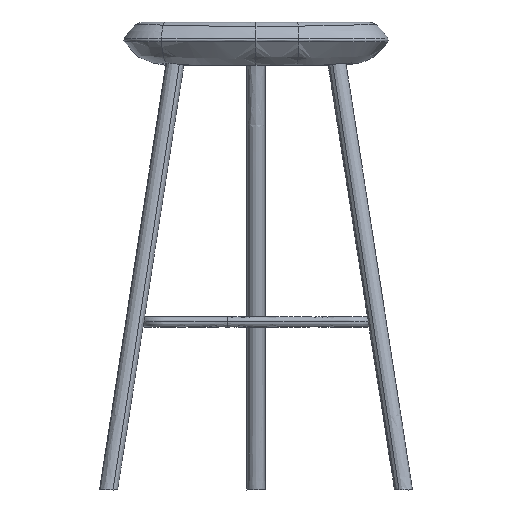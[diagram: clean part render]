
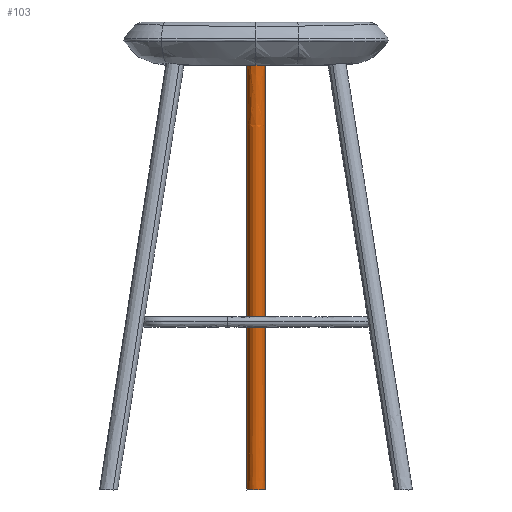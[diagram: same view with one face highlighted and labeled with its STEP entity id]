
A CAD part, front view. The second image highlights one B-rep face of the part: STEP entity #103.
In plain terms, the highlighted free-form (B-spline) face has degree [3, 2] with [4, 5] control points.
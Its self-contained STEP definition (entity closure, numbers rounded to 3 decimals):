
#32=B_SPLINE_CURVE_WITH_KNOTS($,3,(#2730,#2731,#2732,#2733,#2734,#2735,#2736,
#2737,#2738,#2739,#2740,#2741,#2742,#2743,#2744,#2745,#2746,#2747,#2748,
#2749,#2750,#2751,#2752,#2753,#2754,#2755,#2756,#2757,#2758,#2759,#2760,
#2761,#2762,#2763,#2764,#2765,#2766,#2767),.UNSPECIFIED.,.F.,.F.,(4,2,2,
2,2,2,2,2,2,2,2,2,2,2,2,2,2,2,4),(-79.169,-76.701,-74.23,
-71.757,-69.281,-66.808,-64.334,-61.855,
-60.614,-59.373,-56.903,-54.432,
-51.957,-49.48,-47.012,-44.541,
-42.068,-39.592,-39.589),.UNSPECIFIED.);
#33=B_SPLINE_CURVE_WITH_KNOTS($,3,(#2772,#2773,#2774,#2775,#2776,#2777,#2778,
#2779,#2780,#2781,#2782,#2783,#2784,#2785,#2786,#2787,#2788,#2789,#2790,
#2791,#2792,#2793,#2794,#2795,#2796,#2797,#2798,#2799,#2800,#2801,#2802,
#2803,#2804,#2805,#2806,#2807,#2808,#2809),.UNSPECIFIED.,.F.,.F.,(4,2,2,
2,2,2,2,2,2,2,2,2,2,2,2,2,2,2,4),(39.589,39.592,42.069,
44.541,47.012,49.48,51.957,54.431,
56.902,59.37,60.611,61.851,64.328,
66.8,69.27,71.749,74.225,76.699,
79.169),.UNSPECIFIED.);
#103=ADVANCED_FACE($,(#178),#879,.T.);
#178=FACE_OUTER_BOUND($,#253,.T.);
#253=EDGE_LOOP($,(#353,#354,#355,#356));
#353=ORIENTED_EDGE($,*,*,#645,.T.);
#354=ORIENTED_EDGE($,*,*,#642,.T.);
#355=ORIENTED_EDGE($,*,*,#643,.T.);
#356=ORIENTED_EDGE($,*,*,#644,.F.);
#642=EDGE_CURVE($,#790,#791,#941,.T.);
#643=EDGE_CURVE($,#791,#793,#32,.T.);
#644=EDGE_CURVE($,#792,#793,#942,.T.);
#645=EDGE_CURVE($,#792,#790,#33,.T.);
#790=VERTEX_POINT($,#2907);
#791=VERTEX_POINT($,#2908);
#792=VERTEX_POINT($,#2909);
#793=VERTEX_POINT($,#2910);
#879=(
BOUNDED_SURFACE()
B_SPLINE_SURFACE(3,2,((#2887,#2888,#2889,#2890,#2891),(#2892,#2893,#2894,
#2895,#2896),(#2897,#2898,#2899,#2900,#2901),(#2902,#2903,#2904,#2905,#2906)),
.UNSPECIFIED.,.F.,.F.,.F.)
B_SPLINE_SURFACE_WITH_KNOTS((4,4),(3,2,3),(10.,637.253),
(-78.54,-58.905,-39.27),.UNSPECIFIED.)
GEOMETRIC_REPRESENTATION_ITEM()
RATIONAL_B_SPLINE_SURFACE(((1.,0.707,1.,0.707,1.),
(1.,0.707,1.,0.707,1.),(1.,0.707,1.,
0.707,1.),(1.,0.707,1.,0.707,1.)))
REPRESENTATION_ITEM($)
SURFACE()
);
#941=(
BOUNDED_CURVE()
B_SPLINE_CURVE(3,(#2726,#2727,#2728,#2729),.UNSPECIFIED.,.F.,.F.)
B_SPLINE_CURVE_WITH_KNOTS((4,4),(10.,628.792),.UNSPECIFIED.)
CURVE()
GEOMETRIC_REPRESENTATION_ITEM()
RATIONAL_B_SPLINE_CURVE((1.,1.,1.,1.))
REPRESENTATION_ITEM($)
);
#942=(
BOUNDED_CURVE()
B_SPLINE_CURVE(3,(#2768,#2769,#2770,#2771),.UNSPECIFIED.,.F.,.F.)
B_SPLINE_CURVE_WITH_KNOTS((4,4),(10.,628.792),.UNSPECIFIED.)
CURVE()
GEOMETRIC_REPRESENTATION_ITEM()
RATIONAL_B_SPLINE_CURVE((1.,1.,1.,1.))
REPRESENTATION_ITEM($)
);
#2726=CARTESIAN_POINT($,(120739.046,11133.254,-214.));
#2727=CARTESIAN_POINT($,(120739.046,11096.704,-11.));
#2728=CARTESIAN_POINT($,(120739.046,11060.154,192.));
#2729=CARTESIAN_POINT($,(120739.046,11023.604,395.));
#2730=CARTESIAN_POINT($,(120739.046,11023.604,395.));
#2731=CARTESIAN_POINT($,(120739.046,11022.781,395.));
#2732=CARTESIAN_POINT($,(120738.967,11021.959,395.));
#2733=CARTESIAN_POINT($,(120738.653,11020.341,395.));
#2734=CARTESIAN_POINT($,(120738.419,11019.549,395.));
#2735=CARTESIAN_POINT($,(120737.802,11018.019,395.));
#2736=CARTESIAN_POINT($,(120737.42,11017.285,395.));
#2737=CARTESIAN_POINT($,(120736.518,11015.901,395.));
#2738=CARTESIAN_POINT($,(120736.001,11015.255,395.));
#2739=CARTESIAN_POINT($,(120734.848,11014.073,395.));
#2740=CARTESIAN_POINT($,(120734.216,11013.54,395.));
#2741=CARTESIAN_POINT($,(120732.854,11012.607,395.));
#2742=CARTESIAN_POINT($,(120732.128,11012.209,395.));
#2743=CARTESIAN_POINT($,(120730.607,11011.563,395.));
#2744=CARTESIAN_POINT($,(120729.816,11011.316,395.));
#2745=CARTESIAN_POINT($,(120728.599,11011.068,395.));
#2746=CARTESIAN_POINT($,(120728.192,11011.006,395.));
#2747=CARTESIAN_POINT($,(120727.367,11010.923,395.));
#2748=CARTESIAN_POINT($,(120726.956,11010.903,395.));
#2749=CARTESIAN_POINT($,(120725.717,11010.903,395.));
#2750=CARTESIAN_POINT($,(120724.896,11010.986,395.));
#2751=CARTESIAN_POINT($,(120723.28,11011.315,395.));
#2752=CARTESIAN_POINT($,(120722.49,11011.561,395.));
#2753=CARTESIAN_POINT($,(120720.971,11012.205,395.));
#2754=CARTESIAN_POINT($,(120720.245,11012.603,395.));
#2755=CARTESIAN_POINT($,(120718.881,11013.536,395.));
#2756=CARTESIAN_POINT($,(120718.247,11014.069,395.));
#2757=CARTESIAN_POINT($,(120717.094,11015.25,395.));
#2758=CARTESIAN_POINT($,(120716.578,11015.895,395.));
#2759=CARTESIAN_POINT($,(120715.678,11017.275,395.));
#2760=CARTESIAN_POINT($,(120715.295,11018.007,395.));
#2761=CARTESIAN_POINT($,(120714.676,11019.536,395.));
#2762=CARTESIAN_POINT($,(120714.441,11020.329,395.));
#2763=CARTESIAN_POINT($,(120714.126,11021.95,395.));
#2764=CARTESIAN_POINT($,(120714.046,11022.774,395.));
#2765=CARTESIAN_POINT($,(120714.046,11023.602,395.));
#2766=CARTESIAN_POINT($,(120714.046,11023.603,395.));
#2767=CARTESIAN_POINT($,(120714.046,11023.604,395.));
#2768=CARTESIAN_POINT($,(120714.046,11133.254,-214.));
#2769=CARTESIAN_POINT($,(120714.046,11096.704,-11.));
#2770=CARTESIAN_POINT($,(120714.046,11060.154,192.));
#2771=CARTESIAN_POINT($,(120714.046,11023.604,395.));
#2772=CARTESIAN_POINT($,(120714.046,11133.254,-214.));
#2773=CARTESIAN_POINT($,(120714.046,11133.253,-214.));
#2774=CARTESIAN_POINT($,(120714.046,11133.251,-214.));
#2775=CARTESIAN_POINT($,(120714.046,11132.424,-214.));
#2776=CARTESIAN_POINT($,(120714.126,11131.6,-214.));
#2777=CARTESIAN_POINT($,(120714.441,11129.979,-214.));
#2778=CARTESIAN_POINT($,(120714.676,11129.186,-214.));
#2779=CARTESIAN_POINT($,(120715.295,11127.657,-214.));
#2780=CARTESIAN_POINT($,(120715.678,11126.924,-214.));
#2781=CARTESIAN_POINT($,(120716.579,11125.544,-214.));
#2782=CARTESIAN_POINT($,(120717.095,11124.9,-214.));
#2783=CARTESIAN_POINT($,(120718.247,11123.719,-214.));
#2784=CARTESIAN_POINT($,(120718.881,11123.186,-214.));
#2785=CARTESIAN_POINT($,(120720.244,11122.253,-214.));
#2786=CARTESIAN_POINT($,(120720.97,11121.855,-214.));
#2787=CARTESIAN_POINT($,(120722.489,11121.211,-214.));
#2788=CARTESIAN_POINT($,(120723.279,11120.966,-214.));
#2789=CARTESIAN_POINT($,(120724.894,11120.636,-214.));
#2790=CARTESIAN_POINT($,(120725.715,11120.553,-214.));
#2791=CARTESIAN_POINT($,(120726.953,11120.552,-214.));
#2792=CARTESIAN_POINT($,(120727.364,11120.573,-214.));
#2793=CARTESIAN_POINT($,(120728.188,11120.656,-214.));
#2794=CARTESIAN_POINT($,(120728.595,11120.717,-214.));
#2795=CARTESIAN_POINT($,(120729.811,11120.965,-214.));
#2796=CARTESIAN_POINT($,(120730.601,11121.211,-214.));
#2797=CARTESIAN_POINT($,(120732.122,11121.856,-214.));
#2798=CARTESIAN_POINT($,(120732.847,11122.253,-214.));
#2799=CARTESIAN_POINT($,(120734.208,11123.184,-214.));
#2800=CARTESIAN_POINT($,(120734.841,11123.716,-214.));
#2801=CARTESIAN_POINT($,(120735.995,11124.897,-214.));
#2802=CARTESIAN_POINT($,(120736.513,11125.544,-214.));
#2803=CARTESIAN_POINT($,(120737.416,11126.929,-214.));
#2804=CARTESIAN_POINT($,(120737.799,11127.663,-214.));
#2805=CARTESIAN_POINT($,(120738.418,11129.194,-214.));
#2806=CARTESIAN_POINT($,(120738.653,11129.988,-214.));
#2807=CARTESIAN_POINT($,(120738.967,11131.607,-214.));
#2808=CARTESIAN_POINT($,(120739.046,11132.43,-214.));
#2809=CARTESIAN_POINT($,(120739.046,11133.254,-214.));
#2887=CARTESIAN_POINT($,(120739.046,11133.254,-214.));
#2888=CARTESIAN_POINT($,(120739.046,11120.951,-216.215));
#2889=CARTESIAN_POINT($,(120726.546,11120.951,-216.215));
#2890=CARTESIAN_POINT($,(120714.046,11120.951,-216.215));
#2891=CARTESIAN_POINT($,(120714.046,11133.254,-214.));
#2892=CARTESIAN_POINT($,(120739.046,11096.204,-8.224));
#2893=CARTESIAN_POINT($,(120739.046,11083.902,-10.439));
#2894=CARTESIAN_POINT($,(120726.546,11083.902,-10.439));
#2895=CARTESIAN_POINT($,(120714.046,11083.902,-10.439));
#2896=CARTESIAN_POINT($,(120714.046,11096.204,-8.224));
#2897=CARTESIAN_POINT($,(120739.046,11059.154,197.551));
#2898=CARTESIAN_POINT($,(120739.046,11046.852,195.336));
#2899=CARTESIAN_POINT($,(120726.546,11046.852,195.336));
#2900=CARTESIAN_POINT($,(120714.046,11046.852,195.336));
#2901=CARTESIAN_POINT($,(120714.046,11059.154,197.551));
#2902=CARTESIAN_POINT($,(120739.046,11022.105,403.327));
#2903=CARTESIAN_POINT($,(120739.046,11009.802,401.112));
#2904=CARTESIAN_POINT($,(120726.546,11009.802,401.112));
#2905=CARTESIAN_POINT($,(120714.046,11009.802,401.112));
#2906=CARTESIAN_POINT($,(120714.046,11022.105,403.327));
#2907=CARTESIAN_POINT($,(120739.046,11133.254,-214.));
#2908=CARTESIAN_POINT($,(120739.046,11023.604,395.));
#2909=CARTESIAN_POINT($,(120714.046,11133.254,-214.));
#2910=CARTESIAN_POINT($,(120714.046,11023.604,395.));
